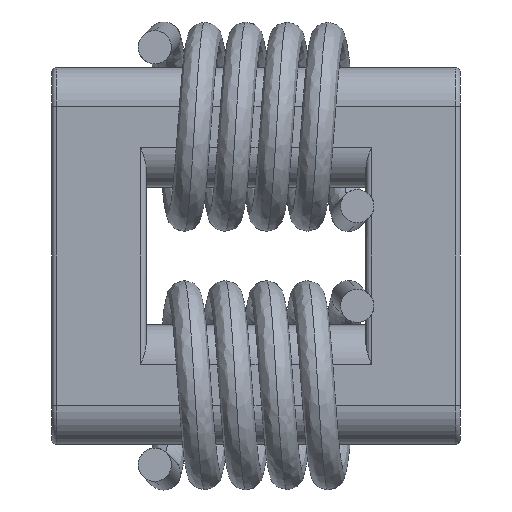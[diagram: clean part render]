
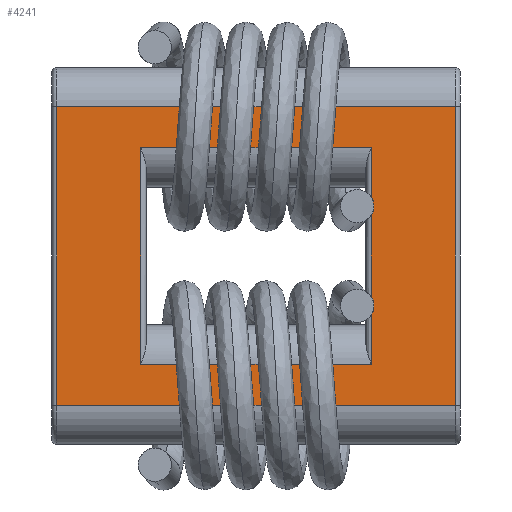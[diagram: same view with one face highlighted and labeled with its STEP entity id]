
A CAD part, front view. The second image highlights one B-rep face of the part: STEP entity #4241.
In plain terms, the highlighted planar face has unit normal (0, -1, 0).
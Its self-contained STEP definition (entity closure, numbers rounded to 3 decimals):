
#13 = CARTESIAN_POINT ( 'NONE',  ( 130.382, 8.69, -8.55 ) ) ;
#223 = VECTOR ( 'NONE', #4429, 1000. ) ;
#246 = CARTESIAN_POINT ( 'NONE',  ( 118.982, 8.69, 0. ) ) ;
#250 = EDGE_CURVE ( 'NONE', #3007, #4510, #2724, .T. ) ;
#262 = ORIENTED_EDGE ( 'NONE', *, *, #4166, .T. ) ;
#270 = CARTESIAN_POINT ( 'NONE',  ( 123.782, 8.69, 6.2 ) ) ;
#316 = DIRECTION ( 'NONE',  ( 1., 0., 0. ) ) ;
#411 = LINE ( 'NONE', #246, #3195 ) ;
#472 = EDGE_CURVE ( 'NONE', #480, #1422, #1084, .T. ) ;
#480 = VERTEX_POINT ( 'NONE', #2159 ) ;
#560 = VECTOR ( 'NONE', #3994, 1000. ) ;
#627 = CARTESIAN_POINT ( 'NONE',  ( 130.382, 8.69, 0. ) ) ;
#760 = CARTESIAN_POINT ( 'NONE',  ( 136.982, 8.69, 6.2 ) ) ;
#1021 = CARTESIAN_POINT ( 'NONE',  ( 141.782, 8.69, 0. ) ) ;
#1041 = VERTEX_POINT ( 'NONE', #1134 ) ;
#1059 = EDGE_CURVE ( 'NONE', #1422, #3007, #5166, .T. ) ;
#1084 = LINE ( 'NONE', #4830, #3402 ) ;
#1134 = CARTESIAN_POINT ( 'NONE',  ( 141.782, 8.69, -8.55 ) ) ;
#1174 = ORIENTED_EDGE ( 'NONE', *, *, #1400, .T. ) ;
#1372 = EDGE_CURVE ( 'NONE', #4510, #480, #4616, .T. ) ;
#1384 = CARTESIAN_POINT ( 'NONE',  ( 130.382, 8.69, 8.55 ) ) ;
#1400 = EDGE_CURVE ( 'NONE', #1573, #1041, #4691, .T. ) ;
#1408 = EDGE_LOOP ( 'NONE', ( #5258, #5706, #3462, #3469 ) ) ;
#1422 = VERTEX_POINT ( 'NONE', #4910 ) ;
#1551 = VECTOR ( 'NONE', #316, 1000. ) ;
#1573 = VERTEX_POINT ( 'NONE', #3579 ) ;
#1804 = CARTESIAN_POINT ( 'NONE',  ( 123.782, 8.69, 6.2 ) ) ;
#1864 = PLANE ( 'NONE',  #4482 ) ;
#1903 = VECTOR ( 'NONE', #2762, 1000. ) ;
#1934 = DIRECTION ( 'NONE',  ( 0., 1., 0. ) ) ;
#1968 = VERTEX_POINT ( 'NONE', #4284 ) ;
#2159 = CARTESIAN_POINT ( 'NONE',  ( 136.982, 8.69, -6.2 ) ) ;
#2200 = DIRECTION ( 'NONE',  ( 0., 0., -1. ) ) ;
#2316 = FACE_OUTER_BOUND ( 'NONE', #5422, .T. ) ;
#2419 = DIRECTION ( 'NONE',  ( 0., 0., 1. ) ) ;
#2724 = LINE ( 'NONE', #3401, #1551 ) ;
#2762 = DIRECTION ( 'NONE',  ( 0., 0., 1. ) ) ;
#2935 = CARTESIAN_POINT ( 'NONE',  ( 118.982, 8.69, 8.55 ) ) ;
#2987 = EDGE_CURVE ( 'NONE', #1968, #5575, #4174, .T. ) ;
#3007 = VERTEX_POINT ( 'NONE', #1804 ) ;
#3026 = CARTESIAN_POINT ( 'NONE',  ( 136.982, 8.69, -6.2 ) ) ;
#3195 = VECTOR ( 'NONE', #3853, 1000. ) ;
#3401 = CARTESIAN_POINT ( 'NONE',  ( 136.682, 8.69, 6.2 ) ) ;
#3402 = VECTOR ( 'NONE', #3991, 1000. ) ;
#3462 = ORIENTED_EDGE ( 'NONE', *, *, #1059, .T. ) ;
#3469 = ORIENTED_EDGE ( 'NONE', *, *, #250, .T. ) ;
#3483 = EDGE_CURVE ( 'NONE', #5575, #1573, #411, .T. ) ;
#3577 = VECTOR ( 'NONE', #2419, 1000. ) ;
#3579 = CARTESIAN_POINT ( 'NONE',  ( 118.982, 8.69, -8.55 ) ) ;
#3853 = DIRECTION ( 'NONE',  ( 0., 0., -1. ) ) ;
#3991 = DIRECTION ( 'NONE',  ( -1., 0., 0. ) ) ;
#3994 = DIRECTION ( 'NONE',  ( -1., 0., 0. ) ) ;
#4166 = EDGE_CURVE ( 'NONE', #1041, #1968, #5418, .T. ) ;
#4174 = LINE ( 'NONE', #1384, #560 ) ;
#4241 = ADVANCED_FACE ( 'NONE', ( #2316, #5482 ), #1864, .F. ) ;
#4284 = CARTESIAN_POINT ( 'NONE',  ( 141.782, 8.69, 8.55 ) ) ;
#4429 = DIRECTION ( 'NONE',  ( 1., 0., 0. ) ) ;
#4480 = VECTOR ( 'NONE', #2200, 1000. ) ;
#4482 = AXIS2_PLACEMENT_3D ( 'NONE', #627, #1934, #5463 ) ;
#4510 = VERTEX_POINT ( 'NONE', #760 ) ;
#4588 = ORIENTED_EDGE ( 'NONE', *, *, #2987, .T. ) ;
#4616 = LINE ( 'NONE', #3026, #4480 ) ;
#4691 = LINE ( 'NONE', #13, #223 ) ;
#4830 = CARTESIAN_POINT ( 'NONE',  ( 124.082, 8.69, -6.2 ) ) ;
#4910 = CARTESIAN_POINT ( 'NONE',  ( 123.782, 8.69, -6.2 ) ) ;
#5166 = LINE ( 'NONE', #270, #3577 ) ;
#5258 = ORIENTED_EDGE ( 'NONE', *, *, #1372, .T. ) ;
#5418 = LINE ( 'NONE', #1021, #1903 ) ;
#5422 = EDGE_LOOP ( 'NONE', ( #4588, #5501, #1174, #262 ) ) ;
#5463 = DIRECTION ( 'NONE',  ( 0., 0., -1. ) ) ;
#5482 = FACE_BOUND ( 'NONE', #1408, .T. ) ;
#5501 = ORIENTED_EDGE ( 'NONE', *, *, #3483, .T. ) ;
#5575 = VERTEX_POINT ( 'NONE', #2935 ) ;
#5706 = ORIENTED_EDGE ( 'NONE', *, *, #472, .T. ) ;
